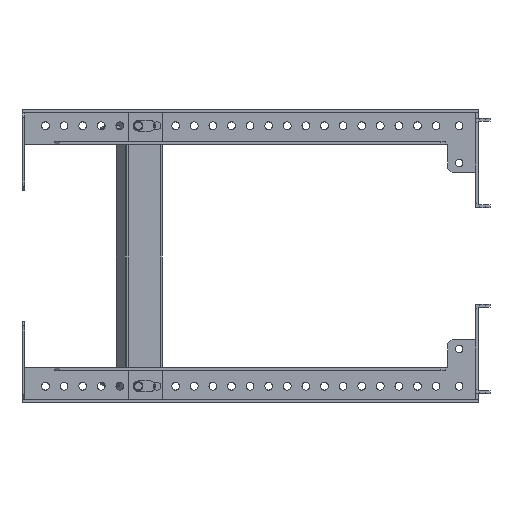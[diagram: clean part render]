
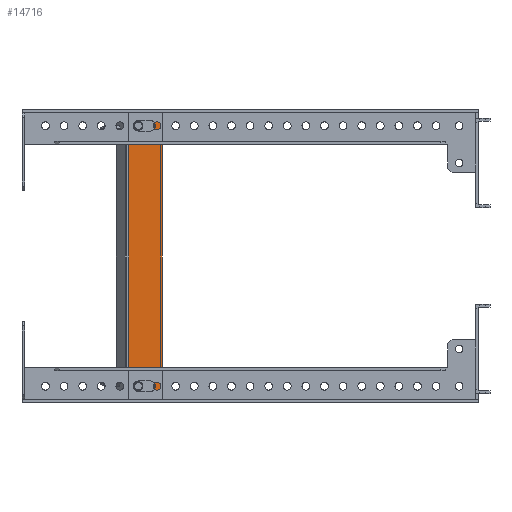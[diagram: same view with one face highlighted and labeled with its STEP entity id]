
A CAD part, front view. The second image highlights one B-rep face of the part: STEP entity #14716.
In plain terms, the highlighted planar face has unit normal (0, -1, 0).
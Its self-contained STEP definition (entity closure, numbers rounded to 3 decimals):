
#306 = FACE_BOUND ( 'NONE', #7232, .T. ) ;
#545 = VECTOR ( 'NONE', #24424, 1000. ) ;
#644 = LINE ( 'NONE', #16764, #545 ) ;
#840 = ORIENTED_EDGE ( 'NONE', *, *, #18339, .F. ) ;
#1168 = DIRECTION ( 'NONE',  ( 0., -1., 0. ) ) ;
#1339 = DIRECTION ( 'NONE',  ( 1., 0., 0. ) ) ;
#1467 = ORIENTED_EDGE ( 'NONE', *, *, #16095, .F. ) ;
#1519 = DIRECTION ( 'NONE',  ( -1., 0., 0. ) ) ;
#1547 = VERTEX_POINT ( 'NONE', #9507 ) ;
#1584 = VECTOR ( 'NONE', #11383, 1000. ) ;
#1719 = CARTESIAN_POINT ( 'NONE',  ( 1105.802, -254., 97.5 ) ) ;
#2908 = VERTEX_POINT ( 'NONE', #1719 ) ;
#3249 = CARTESIAN_POINT ( 'NONE',  ( 1112.302, -254., -84. ) ) ;
#3443 = CARTESIAN_POINT ( 'NONE',  ( 1128.304, -254., -97.5 ) ) ;
#3657 = CARTESIAN_POINT ( 'NONE',  ( 1112.302, -254., 87.5 ) ) ;
#3793 = DIRECTION ( 'NONE',  ( 0., 1., 0. ) ) ;
#4177 = EDGE_CURVE ( 'NONE', #21459, #6044, #12017, .T. ) ;
#4489 = VERTEX_POINT ( 'NONE', #26131 ) ;
#4521 = FACE_OUTER_BOUND ( 'NONE', #23962, .T. ) ;
#4631 = VECTOR ( 'NONE', #1519, 1000. ) ;
#4654 = CARTESIAN_POINT ( 'NONE',  ( 1150.77, -254., 0. ) ) ;
#5188 = CIRCLE ( 'NONE', #10266, 3.5 ) ;
#5323 = DIRECTION ( 'NONE',  ( 0., 0., 1. ) ) ;
#5794 = CARTESIAN_POINT ( 'NONE',  ( 1108.802, -254., 87.5 ) ) ;
#5932 = CARTESIAN_POINT ( 'NONE',  ( 1120.302, -254., -87.5 ) ) ;
#5946 = DIRECTION ( 'NONE',  ( -1., 0., 0. ) ) ;
#6044 = VERTEX_POINT ( 'NONE', #18413 ) ;
#6181 = DIRECTION ( 'NONE',  ( -1., 0., 0. ) ) ;
#6328 = VERTEX_POINT ( 'NONE', #23672 ) ;
#6524 = EDGE_CURVE ( 'NONE', #20105, #19193, #644, .T. ) ;
#6770 = EDGE_CURVE ( 'NONE', #22611, #7428, #9361, .T. ) ;
#7041 = LINE ( 'NONE', #13261, #13486 ) ;
#7093 = VECTOR ( 'NONE', #1339, 1000. ) ;
#7101 = CARTESIAN_POINT ( 'NONE',  ( 1120.302, -254., 91. ) ) ;
#7232 = EDGE_LOOP ( 'NONE', ( #8508, #21895, #16246, #9571, #7336 ) ) ;
#7336 = ORIENTED_EDGE ( 'NONE', *, *, #4177, .T. ) ;
#7428 = VERTEX_POINT ( 'NONE', #11015 ) ;
#7782 = CARTESIAN_POINT ( 'NONE',  ( 1120.302, -254., -91. ) ) ;
#8331 = VERTEX_POINT ( 'NONE', #12077 ) ;
#8508 = ORIENTED_EDGE ( 'NONE', *, *, #25591, .T. ) ;
#8689 = CARTESIAN_POINT ( 'NONE',  ( 1112.302, -254., -87.5 ) ) ;
#8986 = CARTESIAN_POINT ( 'NONE',  ( 1112.302, -254., 87.5 ) ) ;
#9084 = AXIS2_PLACEMENT_3D ( 'NONE', #17657, #13436, #19507 ) ;
#9141 = LINE ( 'NONE', #25133, #1584 ) ;
#9276 = EDGE_LOOP ( 'NONE', ( #14899, #16522, #17777, #840, #9712 ) ) ;
#9361 = CIRCLE ( 'NONE', #15693, 3.5 ) ;
#9506 = LINE ( 'NONE', #19434, #11696 ) ;
#9507 = CARTESIAN_POINT ( 'NONE',  ( 1108.802, -254., -87.5 ) ) ;
#9571 = ORIENTED_EDGE ( 'NONE', *, *, #19340, .T. ) ;
#9712 = ORIENTED_EDGE ( 'NONE', *, *, #9870, .F. ) ;
#9870 = EDGE_CURVE ( 'NONE', #19193, #6328, #23554, .T. ) ;
#9891 = CIRCLE ( 'NONE', #24664, 3.5 ) ;
#10178 = VECTOR ( 'NONE', #5946, 1000. ) ;
#10266 = AXIS2_PLACEMENT_3D ( 'NONE', #25600, #13586, #21652 ) ;
#10809 = DIRECTION ( 'NONE',  ( -1., 0., 0. ) ) ;
#10841 = DIRECTION ( 'NONE',  ( 0., 1., 0. ) ) ;
#10953 = EDGE_CURVE ( 'NONE', #20112, #16225, #7041, .T. ) ;
#11015 = CARTESIAN_POINT ( 'NONE',  ( 1112.302, -254., 91. ) ) ;
#11107 = EDGE_CURVE ( 'NONE', #16225, #2908, #11649, .T. ) ;
#11383 = DIRECTION ( 'NONE',  ( 1., 0., 0. ) ) ;
#11649 = LINE ( 'NONE', #13643, #25179 ) ;
#11696 = VECTOR ( 'NONE', #23522, 1000. ) ;
#11749 = DIRECTION ( 'NONE',  ( 0., -1., 0. ) ) ;
#12017 = LINE ( 'NONE', #24055, #10178 ) ;
#12077 = CARTESIAN_POINT ( 'NONE',  ( 1112.302, -254., -84. ) ) ;
#12162 = AXIS2_PLACEMENT_3D ( 'NONE', #5932, #11749, #6181 ) ;
#12578 = DIRECTION ( 'NONE',  ( 0., 1., 0. ) ) ;
#13261 = CARTESIAN_POINT ( 'NONE',  ( 1150.146, -254., -97.5 ) ) ;
#13269 = CIRCLE ( 'NONE', #24236, 3.5 ) ;
#13436 = DIRECTION ( 'NONE',  ( 0., -1., 0. ) ) ;
#13486 = VECTOR ( 'NONE', #25148, 1000. ) ;
#13586 = DIRECTION ( 'NONE',  ( 0., 1., 0. ) ) ;
#13643 = CARTESIAN_POINT ( 'NONE',  ( 1105.802, -254., -97.5 ) ) ;
#14123 = EDGE_CURVE ( 'NONE', #8331, #1547, #21781, .T. ) ;
#14716 = ADVANCED_FACE ( 'NONE', ( #4521, #306, #22377 ), #20388, .F. ) ;
#14899 = ORIENTED_EDGE ( 'NONE', *, *, #6524, .F. ) ;
#15486 = CARTESIAN_POINT ( 'NONE',  ( 1105.802, -254., 97.5 ) ) ;
#15693 = AXIS2_PLACEMENT_3D ( 'NONE', #3657, #3793, #15824 ) ;
#15824 = DIRECTION ( 'NONE',  ( -1., 0., 0. ) ) ;
#16095 = EDGE_CURVE ( 'NONE', #2908, #4489, #19446, .T. ) ;
#16225 = VERTEX_POINT ( 'NONE', #25772 ) ;
#16246 = ORIENTED_EDGE ( 'NONE', *, *, #23642, .T. ) ;
#16522 = ORIENTED_EDGE ( 'NONE', *, *, #20057, .F. ) ;
#16764 = CARTESIAN_POINT ( 'NONE',  ( 1112.302, -254., -91. ) ) ;
#16821 = DIRECTION ( 'NONE',  ( 1., 0., 0. ) ) ;
#16960 = ORIENTED_EDGE ( 'NONE', *, *, #11107, .F. ) ;
#17657 = CARTESIAN_POINT ( 'NONE',  ( 1112.302, -254., -87.5 ) ) ;
#17777 = ORIENTED_EDGE ( 'NONE', *, *, #14123, .F. ) ;
#18339 = EDGE_CURVE ( 'NONE', #6328, #8331, #19629, .T. ) ;
#18413 = CARTESIAN_POINT ( 'NONE',  ( 1112.302, -254., 84. ) ) ;
#18912 = DIRECTION ( 'NONE',  ( -1., 0., 0. ) ) ;
#18970 = EDGE_CURVE ( 'NONE', #20112, #4489, #9506, .T. ) ;
#19079 = ORIENTED_EDGE ( 'NONE', *, *, #18970, .T. ) ;
#19193 = VERTEX_POINT ( 'NONE', #7782 ) ;
#19340 = EDGE_CURVE ( 'NONE', #26121, #21459, #5188, .T. ) ;
#19434 = CARTESIAN_POINT ( 'NONE',  ( 1128.304, -254., -100.859 ) ) ;
#19446 = LINE ( 'NONE', #15486, #7093 ) ;
#19507 = DIRECTION ( 'NONE',  ( -1., 0., 0. ) ) ;
#19629 = LINE ( 'NONE', #3249, #4631 ) ;
#20057 = EDGE_CURVE ( 'NONE', #1547, #20105, #9891, .T. ) ;
#20105 = VERTEX_POINT ( 'NONE', #21822 ) ;
#20112 = VERTEX_POINT ( 'NONE', #3443 ) ;
#20388 = PLANE ( 'NONE',  #25145 ) ;
#21310 = ORIENTED_EDGE ( 'NONE', *, *, #10953, .F. ) ;
#21459 = VERTEX_POINT ( 'NONE', #25475 ) ;
#21652 = DIRECTION ( 'NONE',  ( -1., 0., 0. ) ) ;
#21781 = CIRCLE ( 'NONE', #9084, 3.5 ) ;
#21822 = CARTESIAN_POINT ( 'NONE',  ( 1112.302, -254., -91. ) ) ;
#21895 = ORIENTED_EDGE ( 'NONE', *, *, #6770, .T. ) ;
#22377 = FACE_BOUND ( 'NONE', #9276, .T. ) ;
#22611 = VERTEX_POINT ( 'NONE', #5794 ) ;
#23522 = DIRECTION ( 'NONE',  ( 0., 0., 1. ) ) ;
#23554 = CIRCLE ( 'NONE', #12162, 3.5 ) ;
#23642 = EDGE_CURVE ( 'NONE', #7428, #26121, #9141, .T. ) ;
#23672 = CARTESIAN_POINT ( 'NONE',  ( 1120.302, -254., -84. ) ) ;
#23962 = EDGE_LOOP ( 'NONE', ( #1467, #16960, #21310, #19079 ) ) ;
#24055 = CARTESIAN_POINT ( 'NONE',  ( 1112.302, -254., 84. ) ) ;
#24236 = AXIS2_PLACEMENT_3D ( 'NONE', #8986, #10841, #18912 ) ;
#24424 = DIRECTION ( 'NONE',  ( 1., 0., 0. ) ) ;
#24664 = AXIS2_PLACEMENT_3D ( 'NONE', #8689, #1168, #10809 ) ;
#25133 = CARTESIAN_POINT ( 'NONE',  ( 1112.302, -254., 91. ) ) ;
#25145 = AXIS2_PLACEMENT_3D ( 'NONE', #4654, #12578, #16821 ) ;
#25148 = DIRECTION ( 'NONE',  ( -1., 0., 0. ) ) ;
#25179 = VECTOR ( 'NONE', #5323, 1000. ) ;
#25475 = CARTESIAN_POINT ( 'NONE',  ( 1120.302, -254., 84. ) ) ;
#25591 = EDGE_CURVE ( 'NONE', #6044, #22611, #13269, .T. ) ;
#25600 = CARTESIAN_POINT ( 'NONE',  ( 1120.302, -254., 87.5 ) ) ;
#25772 = CARTESIAN_POINT ( 'NONE',  ( 1105.802, -254., -97.5 ) ) ;
#26121 = VERTEX_POINT ( 'NONE', #7101 ) ;
#26131 = CARTESIAN_POINT ( 'NONE',  ( 1128.304, -254., 97.5 ) ) ;
